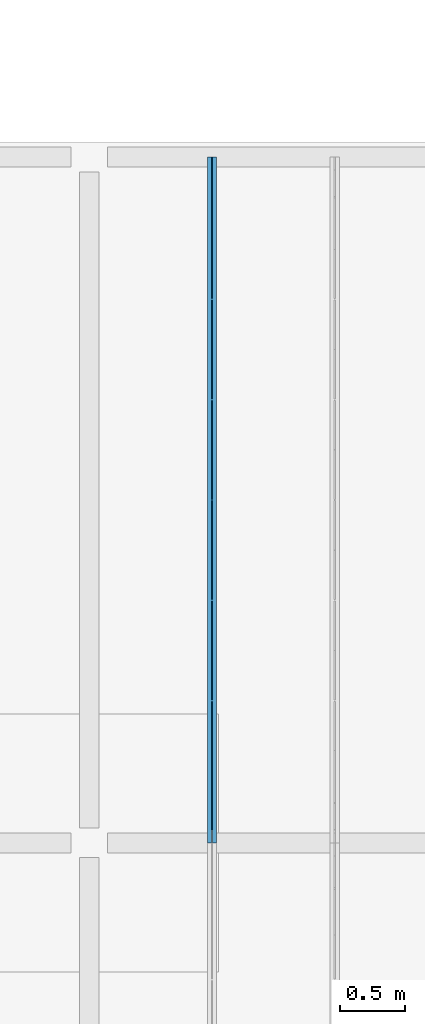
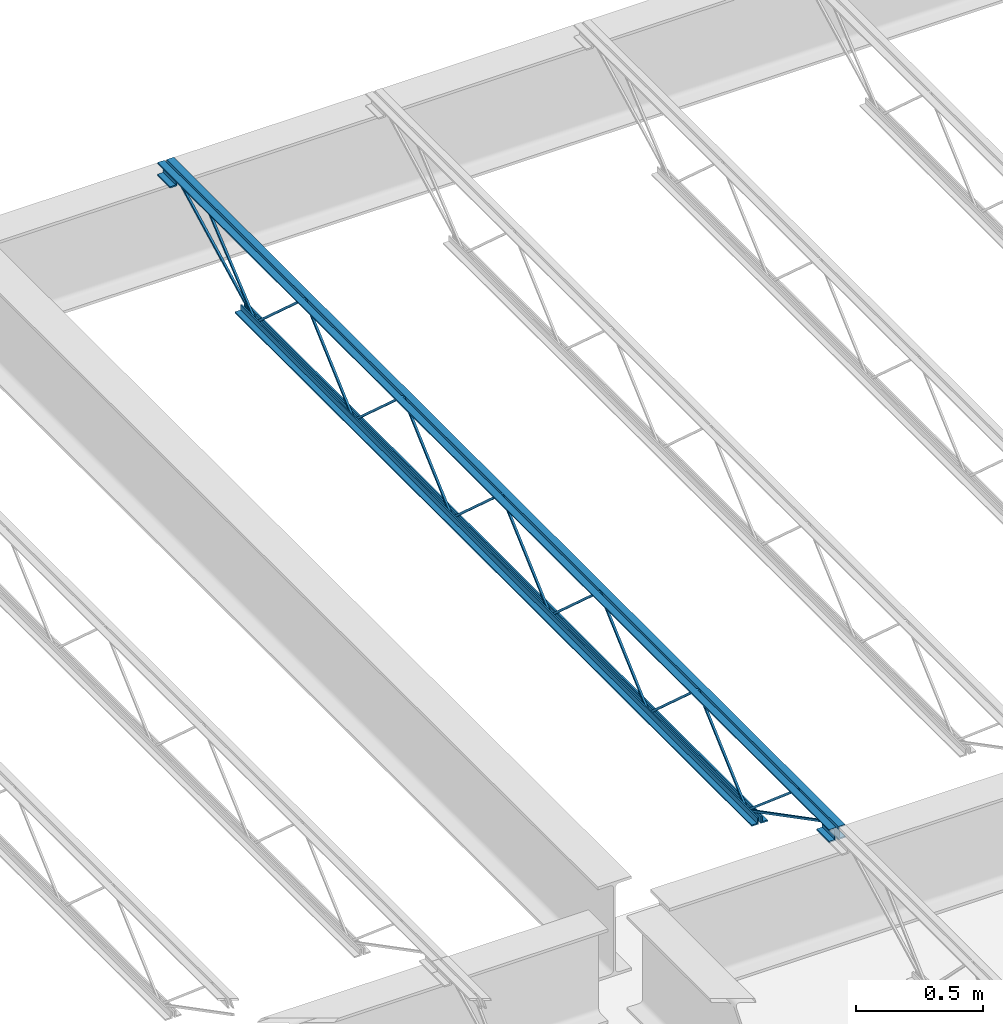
# One storey, part 65 of 75: 1 beam.
"""IFC2X3 building model written with IfcOpenShell, lengths in metres."""

from ifc_helpers import new_model, entity, si_unit, converted_unit, frame, origin, place, context, project, spatial, face_set, surface_model, element, save


model = new_model("IFC2X3")

# Units and contexts
model_context = context("Model", 3, precision=1e-09, world=origin())
plan_context = context("Plan", 3, precision=1e-09, world=origin())
ifc_project = project(units=[si_unit("LENGTHUNIT", "METRE"), si_unit("AREAUNIT", "SQUARE_METRE"), si_unit("VOLUMEUNIT", "CUBIC_METRE"), converted_unit("PLANEANGLEUNIT", "DEGREE", entity("IfcRatioMeasure", 0.01745329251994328), si_unit("PLANEANGLEUNIT", "RADIAN"), dimensions=[0, 0, 0, 0, 0, 0, 0]), si_unit("TIMEUNIT", "SECOND")], contexts=[model_context, plan_context])

# Site, building, storey
site_placement = place(None, origin())
site = spatial("IfcSite", under=ifc_project, at=site_placement, Name="Default", CompositionType="ELEMENT")
building_placement = place(site_placement, origin())
building = spatial("IfcBuilding", under=site, at=building_placement, CompositionType="ELEMENT")
storey_placement = place(building_placement, origin())
storey = spatial("IfcBuildingStorey", under=building, at=storey_placement, Name="First Floor", CompositionType="ELEMENT", Elevation=-3.531500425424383e-13)

# Beam
beam_placement = place(storey_placement, frame((-13.96672812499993, 44.78049999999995, 4.112000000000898), z_axis=(0.0, 0.0, 1.0), x_axis=(-1.0, 0.0, 0.0)))
element("IfcBeam", 1, at=beam_placement, inside=storey, Name="M_K-Series Bar Joist-Rod Web:14K1:14K1", ObjectType="M_K-Series Bar Joist-Rod Web:14K1", context=model_context, shape_type="SurfaceModel", body=[
    surface_model("IfcFaceBasedSurfaceModel", [(-0.0320000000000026, -2.266000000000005, 0.01110000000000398), (-0.04150000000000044, -2.266000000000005, 0.01110000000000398), (-0.04150000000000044, -2.266000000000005, 0.001600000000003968), (-0.0320000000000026, -2.266000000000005, 0.001600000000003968), (-0.04150000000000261, -2.264645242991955, 0.01110000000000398), (-0.0320000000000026, -2.264645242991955, 0.01110000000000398), (-0.04150000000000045, -2.261004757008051, 0.001600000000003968), (-0.04149999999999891, -1.878854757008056, 0.3449000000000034), (-0.04149999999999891, -1.876145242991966, 0.3449000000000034), (-0.04149999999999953, -1.493995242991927, 0.001600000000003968), (-0.04149999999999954, -1.489000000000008, 0.001600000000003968), (-0.04149999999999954, -1.489000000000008, 0.01110000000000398), (-0.04149999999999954, -1.490354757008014, 0.01110000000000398), (-0.04150000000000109, -1.872504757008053, 0.3544000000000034), (-0.04150000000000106, -1.88249524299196, 0.3544000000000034), (-0.03200000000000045, -2.261004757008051, 0.001600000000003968), (-0.03200000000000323, -1.878854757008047, 0.3449000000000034), (-0.03200000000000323, -1.876145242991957, 0.3449000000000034), (-0.0320000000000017, -1.493995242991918, 0.001600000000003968), (-0.03200000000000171, -1.489000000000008, 0.001600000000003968), (-0.03200000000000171, -1.489000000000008, 0.01110000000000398), (-0.0320000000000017, -1.490354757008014, 0.01110000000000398), (-0.03200000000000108, -1.872504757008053, 0.3544000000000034), (-0.03200000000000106, -1.88249524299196, 0.3544000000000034), (-0.03200000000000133, -3.043000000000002, 0.01110000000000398), (-0.04149999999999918, -3.043000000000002, 0.01110000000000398), (-0.04149999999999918, -3.043000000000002, 0.001600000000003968), (-0.03200000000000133, -3.043000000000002, 0.001600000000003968), (-0.04150000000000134, -3.041645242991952, 0.01110000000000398), (-0.03200000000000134, -3.041645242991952, 0.01110000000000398), (-0.04149999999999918, -3.038004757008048, 0.001600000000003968), (-0.0414999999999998, -2.655854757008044, 0.3449000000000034), (-0.04149999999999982, -2.653145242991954, 0.3449000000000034), (-0.04150000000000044, -2.270995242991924, 0.001600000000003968), (-0.04149999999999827, -2.266000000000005, 0.01110000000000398), (-0.04149999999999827, -2.267354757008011, 0.01110000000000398), (-0.04149999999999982, -2.649504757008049, 0.3544000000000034), (-0.0414999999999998, -2.659495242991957, 0.3544000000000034), (-0.03199999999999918, -3.038004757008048, 0.001600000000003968), (-0.03200000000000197, -2.655854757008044, 0.3449000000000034), (-0.03200000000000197, -2.653145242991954, 0.3449000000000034), (-0.03200000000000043, -2.270995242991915, 0.001600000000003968), (-0.03200000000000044, -2.266000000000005, 0.001600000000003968), (-0.0320000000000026, -2.267354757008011, 0.01110000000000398), (-0.03200000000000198, -2.649504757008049, 0.3544000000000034), (-0.03200000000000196, -2.659495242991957, 0.3544000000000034), (-0.03200000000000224, -3.819999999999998, 0.01110000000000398), (-0.04150000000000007, -3.819999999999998, 0.01110000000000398), (-0.04150000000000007, -3.819999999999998, 0.001600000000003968), (-0.03200000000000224, -3.819999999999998, 0.001600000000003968), (-0.04150000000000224, -3.818645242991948, 0.01110000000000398), (-0.03200000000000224, -3.818645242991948, 0.01110000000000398), (-0.04150000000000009, -3.815004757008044, 0.001600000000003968), (-0.0415000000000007, -3.432854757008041, 0.3449000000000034), (-0.04150000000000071, -3.43014524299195, 0.3449000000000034), (-0.04149999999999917, -3.047995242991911, 0.001600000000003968), (-0.04149999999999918, -3.042999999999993, 0.001600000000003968), (-0.04149999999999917, -3.044354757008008, 0.01110000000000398), (-0.04150000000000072, -3.426504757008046, 0.3544000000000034), (-0.0415000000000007, -3.436495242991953, 0.3544000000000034), (-0.03200000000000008, -3.815004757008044, 0.001600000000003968), (-0.03200000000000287, -3.432854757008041, 0.3449000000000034), (-0.03200000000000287, -3.43014524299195, 0.3449000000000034), (-0.03200000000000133, -3.047995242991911, 0.001600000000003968), (-0.03200000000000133, -3.042999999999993, 0.01110000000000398), (-0.03200000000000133, -3.044354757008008, 0.01110000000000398), (-0.03200000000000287, -3.426504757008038, 0.3544000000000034), (-0.03200000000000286, -3.436495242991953, 0.3544000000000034), (-0.03200000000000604, -1.489000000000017, 0.01109999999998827), (-0.04150000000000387, -1.489000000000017, 0.01109999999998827), (-0.04150000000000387, -1.489000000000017, 0.001599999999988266), (-0.03200000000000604, -1.489000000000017, 0.001599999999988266), (-0.04150000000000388, -1.487645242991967, 0.01109999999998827), (-0.03200000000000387, -1.487645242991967, 0.01109999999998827), (-0.04150000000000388, -1.484004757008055, 0.001599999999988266), (-0.04150000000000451, -1.101854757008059, 0.3448999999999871), (-0.04150000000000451, -1.099145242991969, 0.3448999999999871), (-0.04150000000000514, -0.7169952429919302, 0.001599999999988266), (-0.04150000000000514, -0.7120000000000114, 0.001599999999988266), (-0.04150000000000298, -0.7120000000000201, 0.01109999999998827), (-0.04150000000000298, -0.7133547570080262, 0.01109999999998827), (-0.04150000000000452, -1.095504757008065, 0.3543999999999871), (-0.0415000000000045, -1.105495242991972, 0.3543999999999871), (-0.03200000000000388, -1.484004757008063, 0.001599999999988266), (-0.0320000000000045, -1.101854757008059, 0.3448999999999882), (-0.0320000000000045, -1.099145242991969, 0.3448999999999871), (-0.03200000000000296, -0.7169952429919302, 0.001599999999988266), (-0.03200000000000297, -0.7120000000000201, 0.001599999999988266), (-0.0320000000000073, -0.7120000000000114, 0.01109999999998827), (-0.03200000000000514, -0.7133547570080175, 0.01109999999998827), (-0.03200000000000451, -1.095504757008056, 0.3543999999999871), (-0.0320000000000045, -1.105495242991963, 0.3543999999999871), (-0.03200000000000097, -4.596999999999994, 0.01110000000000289), (-0.04149999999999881, -4.596999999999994, 0.01110000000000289), (-0.04149999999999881, -4.596999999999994, 0.001600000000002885), (-0.03200000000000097, -4.596999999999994, 0.001600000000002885), (-0.04150000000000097, -4.595645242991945, 0.01110000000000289), (-0.03200000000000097, -4.595645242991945, 0.01110000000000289), (-0.04149999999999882, -4.592004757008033, 0.001600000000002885), (-0.04149999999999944, -4.209854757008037, 0.3449000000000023), (-0.04149999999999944, -4.207145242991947, 0.3449000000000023), (-0.04150000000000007, -3.824995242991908, 0.001600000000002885), (-0.04150000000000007, -3.819999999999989, 0.001600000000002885), (-0.04149999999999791, -3.819999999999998, 0.01110000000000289), (-0.04149999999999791, -3.821354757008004, 0.01110000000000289), (-0.04149999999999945, -4.203504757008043, 0.3544000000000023), (-0.04149999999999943, -4.21349524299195, 0.3544000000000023), (-0.03199999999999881, -4.592004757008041, 0.001600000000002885), (-0.0320000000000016, -4.209854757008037, 0.3449000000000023), (-0.0320000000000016, -4.207145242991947, 0.3449000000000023), (-0.03200000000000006, -3.824995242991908, 0.001600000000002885), (-0.03200000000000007, -3.819999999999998, 0.001600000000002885), (-0.03200000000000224, -3.819999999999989, 0.01110000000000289), (-0.03200000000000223, -3.821354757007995, 0.01110000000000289), (-0.03200000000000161, -4.203504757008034, 0.3544000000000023), (-0.03200000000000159, -4.21349524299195, 0.3544000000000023), (-0.04150000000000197, 0.0, 0.3559999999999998), (-0.07350000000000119, 0.0, 0.3559999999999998), (-0.07350000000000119, 0.0, 0.349499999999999), (-0.04800000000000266, 0.0, 0.349499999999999), (-0.04800000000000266, 0.0, 0.3239999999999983), (-0.04150000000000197, 0.0, 0.3239999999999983), (-0.03200000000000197, 0.0, 0.3559999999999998), (-0.03200000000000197, 0.0, 0.3239999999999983), (-0.02550000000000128, 0.0, 0.3239999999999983), (-0.02550000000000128, 0.0, 0.349499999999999), (0.0, 0.0, 0.349499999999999), (0.0, 0.0, 0.3559999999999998), (-0.04150000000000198, -5.308999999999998, 0.3559999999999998), (-0.0735000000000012, -5.308999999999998, 0.3559999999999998), (-0.0735000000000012, -5.308999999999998, 0.349499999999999), (-0.04800000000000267, -5.308999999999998, 0.349499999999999), (-0.04800000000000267, -5.308999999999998, 0.3239999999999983), (-0.04150000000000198, -5.308999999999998, 0.3239999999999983), (-0.03200000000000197, -5.308999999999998, 0.3559999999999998), (-0.03200000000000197, -5.308999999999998, 0.3239999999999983), (-0.02550000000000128, -5.308999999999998, 0.3239999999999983), (-0.02550000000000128, -5.308999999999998, 0.349499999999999), (0.0, -5.308999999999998, 0.349499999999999), (0.0, -5.308999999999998, 0.3559999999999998), (-0.03200000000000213, -5.209000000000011, 0.2924999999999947), (0.0, -5.209000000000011, 0.2924999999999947), (0.0, -5.209000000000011, 0.2989999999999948), (-0.02550000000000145, -5.209000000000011, 0.2989999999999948), (-0.02550000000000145, -5.209000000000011, 0.3239999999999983), (-0.03200000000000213, -5.209000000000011, 0.3239999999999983), (-0.07350000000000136, -5.209000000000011, 0.2924999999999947), (-0.04150000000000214, -5.209000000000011, 0.2924999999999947), (-0.04150000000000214, -5.209000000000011, 0.3239999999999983), (-0.04800000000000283, -5.209000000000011, 0.3239999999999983), (-0.04800000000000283, -5.209000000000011, 0.2989999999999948), (-0.07350000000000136, -5.209000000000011, 0.2989999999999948), (-0.03200000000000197, -5.308999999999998, 0.2924999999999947), (0.0, -5.308999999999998, 0.2924999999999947), (0.0, -5.308999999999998, 0.2989999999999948), (-0.02550000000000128, -5.308999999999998, 0.2989999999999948), (-0.0735000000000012, -5.308999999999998, 0.2924999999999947), (-0.04150000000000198, -5.308999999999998, 0.2924999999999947), (-0.04800000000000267, -5.308999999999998, 0.2989999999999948), (-0.0735000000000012, -5.308999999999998, 0.2989999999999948), (-0.04150000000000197, 0.0, 0.2924999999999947), (-0.04800000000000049, 0.0, 0.3239999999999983), (-0.04800000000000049, 0.0, 0.2989999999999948), (-0.07350000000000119, 0.0, 0.2989999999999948), (-0.07350000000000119, 0.0, 0.2924999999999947), (-0.03200000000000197, 0.0, 0.2924999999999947), (0.0, 0.0, 0.2924999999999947), (0.0, 0.0, 0.2989999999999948), (-0.02550000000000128, 0.0, 0.2989999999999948), (-0.04150000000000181, -0.0999999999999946, 0.2924999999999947), (-0.04150000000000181, -0.0999999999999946, 0.3239999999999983), (-0.04800000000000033, -0.0999999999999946, 0.3239999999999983), (-0.04800000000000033, -0.0999999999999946, 0.2989999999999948), (-0.07350000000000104, -0.0999999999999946, 0.2989999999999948), (-0.07350000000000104, -0.0999999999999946, 0.2924999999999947), (-0.03200000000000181, -0.0999999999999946, 0.2924999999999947), (0.0, -0.0999999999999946, 0.2924999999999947), (0.0, -0.0999999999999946, 0.2989999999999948), (-0.02550000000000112, -0.0999999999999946, 0.2989999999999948), (-0.02550000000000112, -0.0999999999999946, 0.3239999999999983), (-0.03200000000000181, -0.0999999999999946, 0.3239999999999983), (-0.04150000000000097, -0.6119999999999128, 0.0), (-0.04150000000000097, -0.6119999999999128, 0.03199999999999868), (-0.04800000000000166, -0.6119999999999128, 0.03199999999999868), (-0.04800000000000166, -0.6119999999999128, 0.006499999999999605), (-0.07350000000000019, -0.6119999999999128, 0.006499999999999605), (-0.07350000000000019, -0.6119999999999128, 0.0), (-0.03200000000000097, -0.6119999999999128, 0.0), (0.0, -0.6119999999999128, 0.0), (0.0, -0.6119999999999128, 0.006499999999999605), (-0.02550000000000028, -0.6119999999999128, 0.006499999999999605), (-0.02550000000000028, -0.6119999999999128, 0.03199999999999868), (-0.03200000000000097, -0.6119999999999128, 0.03199999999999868), (-0.04150000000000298, -4.696999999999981, 0.0), (-0.04150000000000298, -4.696999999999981, 0.03199999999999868), (-0.04800000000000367, -4.696999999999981, 0.03199999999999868), (-0.04800000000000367, -4.696999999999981, 0.006499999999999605), (-0.0735000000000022, -4.696999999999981, 0.006499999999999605), (-0.0735000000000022, -4.696999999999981, 0.0), (-0.03200000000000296, -4.696999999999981, 0.0), (0.0, -4.696999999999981, 0.0), (0.0, -4.696999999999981, 0.006499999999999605), (-0.02550000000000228, -4.696999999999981, 0.006499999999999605), (-0.02550000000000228, -4.696999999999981, 0.03199999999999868), (-0.03200000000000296, -4.696999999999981, 0.03199999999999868), (-0.03199999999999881, -4.594811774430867, 0.01056594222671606), (-0.04149999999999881, -4.594811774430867, 0.01056594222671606), (-0.04149999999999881, -4.599188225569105, 0.002134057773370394), (-0.03200000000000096, -4.599188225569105, 0.002134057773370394), (-0.0319999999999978, -5.207840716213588, 0.3287499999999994), (-0.0319999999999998, -5.308999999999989, 0.3287499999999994), (-0.03200000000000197, -5.308999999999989, 0.3192499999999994), (-0.03200000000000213, -5.210159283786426, 0.3192499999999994), (-0.04149999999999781, -5.210159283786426, 0.3192499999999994), (-0.04149999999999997, -5.207840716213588, 0.3287499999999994), (-0.04149999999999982, -5.308999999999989, 0.3287499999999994), (-0.04149999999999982, -5.308999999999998, 0.3192499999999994), (-0.03200000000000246, -5.005457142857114, 0.341700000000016), (-0.0415000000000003, -5.005457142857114, 0.341700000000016), (-0.0415000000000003, -5.005457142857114, 0.332200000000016), (-0.03200000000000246, -5.005457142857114, 0.332200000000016), (-0.04150000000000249, -4.991034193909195, 0.341700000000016), (-0.03200000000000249, -4.991034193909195, 0.341700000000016), (-0.04150000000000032, -4.99448009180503, 0.332200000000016), (-0.0414999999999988, -4.600045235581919, 0.002704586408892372), (-0.04150000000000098, -4.593954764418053, 0.009995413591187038), (-0.03200000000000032, -4.99448009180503, 0.332200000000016), (-0.03200000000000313, -4.600045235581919, 0.002704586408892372), (-0.03199999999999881, -4.593954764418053, 0.009995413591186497), (-0.03199999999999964, -0.09781177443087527, 0.3197840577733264), (-0.03200000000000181, -0.1021882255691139, 0.3282159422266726), (-0.04150000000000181, -0.1021882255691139, 0.3282159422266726), (-0.04149999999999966, -0.09781177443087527, 0.3197840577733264), (-0.03200000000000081, -0.7098117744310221, 0.002134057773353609), (-0.03200000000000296, -0.7141882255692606, 0.01056594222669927), (-0.04150000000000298, -0.7141882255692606, 0.01056594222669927), (-0.04150000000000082, -0.7098117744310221, 0.002134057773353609), (-0.0319999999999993, -0.3059055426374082, 0.3460340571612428), (-0.03200000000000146, -0.3120658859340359, 0.3532659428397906), (-0.04150000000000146, -0.3120658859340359, 0.3532659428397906), (-0.04149999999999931, -0.3059055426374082, 0.3460340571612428), (-0.03200000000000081, -0.7089198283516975, 0.002734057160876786), (-0.03200000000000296, -0.7150801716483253, 0.009965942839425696), (-0.04150000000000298, -0.7150801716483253, 0.009965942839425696), (-0.04150000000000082, -0.7089198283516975, 0.002734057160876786)], [face_set([[[0, 1, 2, 3]], [[1, 4, 5, 0]], [[2, 6, 7, 8, 9, 10, 11, 12, 13, 14, 4, 1]], [[3, 2, 6, 15]], [[0, 3, 15, 16, 17, 18, 19, 20, 21, 22, 23, 5]], [[4, 5, 23, 14]], [[15, 16, 7, 6]], [[14, 13, 22, 23]], [[16, 7, 8, 17]], [[13, 12, 21, 22]], [[17, 8, 9, 18]], [[20, 11, 10, 19]], [[12, 11, 20, 21]], [[18, 9, 10, 19]]]), face_set([[[24, 25, 26, 27]], [[25, 28, 29, 24]], [[26, 30, 31, 32, 33, 2, 34, 35, 36, 37, 28, 25]], [[27, 26, 30, 38]], [[24, 27, 38, 39, 40, 41, 42, 0, 43, 44, 45, 29]], [[28, 29, 45, 37]], [[38, 39, 31, 30]], [[37, 36, 44, 45]], [[39, 31, 32, 40]], [[36, 35, 43, 44]], [[40, 32, 33, 41]], [[0, 34, 2, 42]], [[35, 34, 0, 43]], [[41, 33, 2, 42]]]), face_set([[[46, 47, 48, 49]], [[47, 50, 51, 46]], [[48, 52, 53, 54, 55, 56, 25, 57, 58, 59, 50, 47]], [[49, 48, 52, 60]], [[46, 49, 60, 61, 62, 63, 27, 64, 65, 66, 67, 51]], [[50, 51, 67, 59]], [[60, 61, 53, 52]], [[59, 58, 66, 67]], [[61, 53, 54, 62]], [[58, 57, 65, 66]], [[62, 54, 55, 63]], [[64, 25, 56, 27]], [[57, 25, 64, 65]], [[63, 55, 56, 27]]]), face_set([[[68, 69, 70, 71]], [[69, 72, 73, 68]], [[70, 74, 75, 76, 77, 78, 79, 80, 81, 82, 72, 69]], [[71, 70, 74, 83]], [[68, 71, 83, 84, 85, 86, 87, 88, 89, 90, 91, 73]], [[72, 73, 91, 82]], [[83, 84, 75, 74]], [[82, 81, 90, 91]], [[84, 75, 76, 85]], [[81, 80, 89, 90]], [[85, 76, 77, 86]], [[88, 79, 78, 87]], [[80, 79, 88, 89]], [[86, 77, 78, 87]]]), face_set([[[92, 93, 94, 95]], [[93, 96, 97, 92]], [[94, 98, 99, 100, 101, 102, 103, 104, 105, 106, 96, 93]], [[95, 94, 98, 107]], [[92, 95, 107, 108, 109, 110, 111, 112, 113, 114, 115, 97]], [[96, 97, 115, 106]], [[107, 108, 99, 98]], [[106, 105, 114, 115]], [[108, 99, 100, 109]], [[105, 104, 113, 114]], [[109, 100, 101, 110]], [[112, 103, 102, 111]], [[104, 103, 112, 113]], [[110, 101, 102, 111]]]), face_set([[[116, 117, 118, 119, 120, 121]], [[122, 123, 124, 125, 126, 127]], [[128, 129, 130, 131, 132, 133]], [[134, 135, 136, 137, 138, 139]], [[121, 116, 128, 133]], [[120, 121, 133, 132]], [[119, 131, 132, 120]], [[118, 119, 131, 130]], [[117, 129, 130, 118]], [[116, 128, 129, 117]], [[127, 139, 134, 122]], [[126, 127, 139, 138]], [[125, 126, 138, 137]], [[124, 125, 137, 136]], [[123, 124, 136, 135]], [[122, 134, 135, 123]]]), face_set([[[140, 141, 142, 143, 144, 145]], [[146, 147, 148, 149, 150, 151]], [[152, 153, 154, 155, 136, 135]], [[156, 157, 133, 132, 158, 159]], [[145, 135, 152, 140]], [[144, 136, 135, 145]], [[143, 144, 136, 155]], [[142, 154, 155, 143]], [[141, 142, 154, 153]], [[140, 141, 153, 152]], [[151, 159, 156, 146]], [[150, 158, 159, 151]], [[149, 132, 158, 150]], [[148, 133, 132, 149]], [[147, 148, 133, 157]], [[146, 147, 157, 156]]]), face_set([[[160, 121, 161, 162, 163, 164]], [[165, 166, 167, 168, 124, 123]], [[169, 170, 171, 172, 173, 174]], [[175, 176, 177, 178, 179, 180]], [[164, 160, 169, 174]], [[163, 173, 174, 164]], [[162, 172, 173, 163]], [[161, 171, 172, 162]], [[121, 170, 171, 161]], [[160, 121, 170, 169]], [[123, 180, 175, 165]], [[124, 179, 180, 123]], [[168, 124, 179, 178]], [[167, 177, 178, 168]], [[166, 167, 177, 176]], [[165, 166, 176, 175]]]), face_set([[[181, 182, 183, 184, 185, 186]], [[187, 188, 189, 190, 191, 192]], [[193, 194, 195, 196, 197, 198]], [[199, 200, 201, 202, 203, 204]], [[186, 181, 193, 198]], [[185, 197, 198, 186]], [[184, 196, 197, 185]], [[183, 195, 196, 184]], [[182, 194, 195, 183]], [[181, 182, 194, 193]], [[192, 204, 199, 187]], [[191, 203, 204, 192]], [[190, 191, 203, 202]], [[189, 201, 202, 190]], [[188, 189, 201, 200]], [[187, 188, 200, 199]]]), face_set([[[205, 206, 207, 208]], [[208, 205, 209, 210, 211, 212]], [[207, 208, 212, 213]], [[206, 214, 215, 216, 213, 207]], [[205, 209, 214, 206]], [[210, 215, 216, 211]], [[213, 212, 211, 216]], [[209, 210, 215, 214]]]), face_set([[[217, 218, 219, 220]], [[218, 221, 222, 217]], [[219, 223, 224, 225, 221, 218]], [[220, 219, 223, 226]], [[217, 220, 226, 227, 228, 222]], [[228, 225, 224, 227]], [[221, 225, 228, 222]], [[226, 223, 224, 227]]]), face_set([[[229, 230, 231, 232]], [[233, 234, 235, 236]], [[232, 236, 233, 229]], [[231, 235, 236, 232]], [[230, 231, 235, 234]], [[229, 230, 234, 233]]]), face_set([[[237, 238, 239, 240]], [[241, 242, 243, 244]], [[240, 244, 241, 237]], [[239, 243, 244, 240]], [[238, 239, 243, 242]], [[237, 238, 242, 241]]])]),
])

save(model, "model.ifc")
